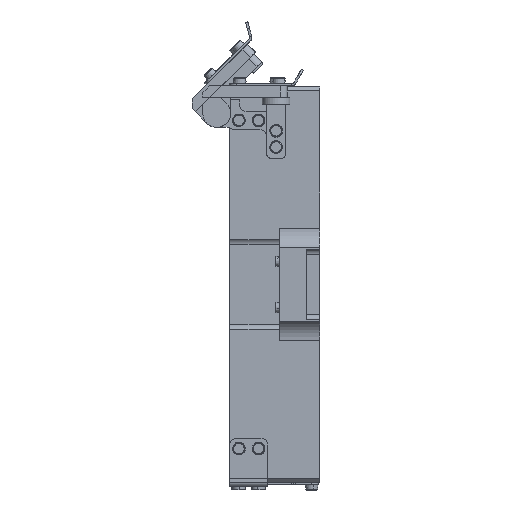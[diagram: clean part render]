
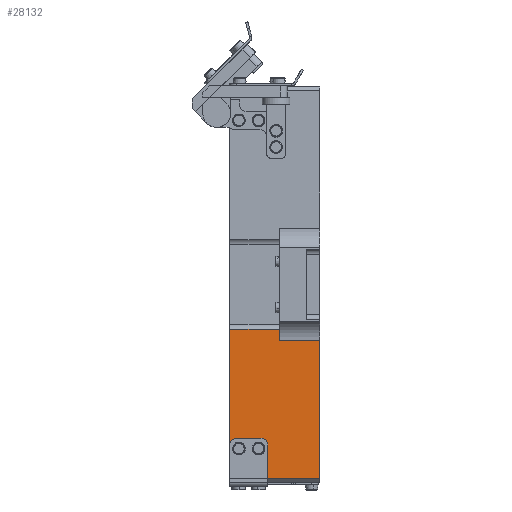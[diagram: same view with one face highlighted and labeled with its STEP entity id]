
A CAD part, left-side view. The second image highlights one B-rep face of the part: STEP entity #28132.
In plain terms, the highlighted planar face has unit normal (-1, 0, 0).
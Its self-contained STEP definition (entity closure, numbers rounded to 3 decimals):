
#37 = EDGE_CURVE ( 'NONE', #5263, #28779, #29802, .T. ) ;
#280 = VECTOR ( 'NONE', #31866, 1000. ) ;
#1132 = EDGE_CURVE ( 'NONE', #28779, #25888, #34194, .T. ) ;
#1254 = LINE ( 'NONE', #32249, #36612 ) ;
#1650 = EDGE_CURVE ( 'NONE', #9649, #34213, #6955, .T. ) ;
#1798 = DIRECTION ( 'NONE',  ( 1., 0., 0. ) ) ;
#1805 = CARTESIAN_POINT ( 'NONE',  ( -107.5, 39., -69.5 ) ) ;
#1831 = CARTESIAN_POINT ( 'NONE',  ( -107.5, 22.5, -66.5 ) ) ;
#3813 = VERTEX_POINT ( 'NONE', #1805 ) ;
#4221 = DIRECTION ( 'NONE',  ( 0., 1., 0. ) ) ;
#4945 = CARTESIAN_POINT ( 'NONE',  ( -107.5, 0., 0. ) ) ;
#4967 = CIRCLE ( 'NONE', #10204, 3. ) ;
#5263 = VERTEX_POINT ( 'NONE', #21973 ) ;
#5346 = LINE ( 'NONE', #25893, #20368 ) ;
#6797 = CARTESIAN_POINT ( 'NONE',  ( -107.5, 0., -84. ) ) ;
#6945 = FACE_OUTER_BOUND ( 'NONE', #31170, .T. ) ;
#6955 = CIRCLE ( 'NONE', #9812, 3. ) ;
#7314 = DIRECTION ( 'NONE',  ( 0., 1., 0. ) ) ;
#7588 = CARTESIAN_POINT ( 'NONE',  ( -107.5, 25.5, -69.5 ) ) ;
#8574 = CARTESIAN_POINT ( 'NONE',  ( -107.5, 17.4, -24.352 ) ) ;
#8708 = CARTESIAN_POINT ( 'NONE',  ( -107.5, 39., -19.412 ) ) ;
#8714 = VECTOR ( 'NONE', #7314, 1000. ) ;
#8964 = VERTEX_POINT ( 'NONE', #8708 ) ;
#9439 = EDGE_CURVE ( 'NONE', #16827, #8964, #32076, .T. ) ;
#9612 = CARTESIAN_POINT ( 'NONE',  ( -107.5, 12., -84. ) ) ;
#9649 = VERTEX_POINT ( 'NONE', #10187 ) ;
#9761 = VECTOR ( 'NONE', #16106, 1000. ) ;
#9812 = AXIS2_PLACEMENT_3D ( 'NONE', #7588, #27861, #10530 ) ;
#10187 = CARTESIAN_POINT ( 'NONE',  ( -107.5, 25.5, -66.5 ) ) ;
#10204 = AXIS2_PLACEMENT_3D ( 'NONE', #13142, #1798, #4221 ) ;
#10530 = DIRECTION ( 'NONE',  ( 0., 1., 0. ) ) ;
#10693 = ORIENTED_EDGE ( 'NONE', *, *, #18094, .T. ) ;
#10907 = CARTESIAN_POINT ( 'NONE',  ( -107.5, 12., -70.5 ) ) ;
#11774 = LINE ( 'NONE', #37288, #16723 ) ;
#12493 = DIRECTION ( 'NONE',  ( 0., -1., 0. ) ) ;
#13142 = CARTESIAN_POINT ( 'NONE',  ( -107.5, 36., -69.5 ) ) ;
#14442 = DIRECTION ( 'NONE',  ( 0., 0., -1. ) ) ;
#14593 = EDGE_CURVE ( 'NONE', #8964, #3813, #11774, .T. ) ;
#16106 = DIRECTION ( 'NONE',  ( 0., 0., 1. ) ) ;
#16472 = CARTESIAN_POINT ( 'NONE',  ( -107.5, 22.5, -87.5 ) ) ;
#16719 = ORIENTED_EDGE ( 'NONE', *, *, #28828, .T. ) ;
#16723 = VECTOR ( 'NONE', #14442, 1000. ) ;
#16827 = VERTEX_POINT ( 'NONE', #20977 ) ;
#17596 = VERTEX_POINT ( 'NONE', #27601 ) ;
#18094 = EDGE_CURVE ( 'NONE', #35577, #16827, #1254, .T. ) ;
#19774 = DIRECTION ( 'NONE',  ( 1., 0., 0. ) ) ;
#20368 = VECTOR ( 'NONE', #37483, 1000. ) ;
#20646 = EDGE_CURVE ( 'NONE', #34213, #5263, #20918, .T. ) ;
#20918 = LINE ( 'NONE', #16472, #31311 ) ;
#20977 = CARTESIAN_POINT ( 'NONE',  ( -107.5, 17.4, -19.412 ) ) ;
#21009 = DIRECTION ( 'NONE',  ( 0., 0., 1. ) ) ;
#21973 = CARTESIAN_POINT ( 'NONE',  ( -107.5, 22.5, -84. ) ) ;
#22271 = EDGE_CURVE ( 'NONE', #9649, #17596, #36750, .T. ) ;
#22941 = EDGE_CURVE ( 'NONE', #25888, #35577, #5346, .T. ) ;
#25479 = AXIS2_PLACEMENT_3D ( 'NONE', #10907, #19774, #28341 ) ;
#25613 = CARTESIAN_POINT ( 'NONE',  ( -107.5, 0., -24.352 ) ) ;
#25623 = ORIENTED_EDGE ( 'NONE', *, *, #9439, .T. ) ;
#25888 = VERTEX_POINT ( 'NONE', #25613 ) ;
#25893 = CARTESIAN_POINT ( 'NONE',  ( -107.5, -9.487, -24.352 ) ) ;
#27063 = VECTOR ( 'NONE', #12493, 1000. ) ;
#27529 = ORIENTED_EDGE ( 'NONE', *, *, #1650, .T. ) ;
#27601 = CARTESIAN_POINT ( 'NONE',  ( -107.5, 36., -66.5 ) ) ;
#27861 = DIRECTION ( 'NONE',  ( 1., 0., 0. ) ) ;
#27917 = ORIENTED_EDGE ( 'NONE', *, *, #20646, .T. ) ;
#27993 = PLANE ( 'NONE',  #25479 ) ;
#28132 = ADVANCED_FACE ( 'NONE', ( #6945 ), #27993, .F. ) ;
#28341 = DIRECTION ( 'NONE',  ( 0., 0., -1. ) ) ;
#28439 = CARTESIAN_POINT ( 'NONE',  ( -107.5, -22.983, -19.412 ) ) ;
#28779 = VERTEX_POINT ( 'NONE', #6797 ) ;
#28828 = EDGE_CURVE ( 'NONE', #3813, #17596, #4967, .T. ) ;
#29802 = LINE ( 'NONE', #9612, #27063 ) ;
#30211 = ORIENTED_EDGE ( 'NONE', *, *, #22941, .T. ) ;
#30809 = DIRECTION ( 'NONE',  ( 0., 0., -1. ) ) ;
#31170 = EDGE_LOOP ( 'NONE', ( #33918, #16719, #34902, #27529, #27917, #35528, #36003, #30211, #10693, #25623 ) ) ;
#31311 = VECTOR ( 'NONE', #30809, 1000. ) ;
#31866 = DIRECTION ( 'NONE',  ( 0., 1., 0. ) ) ;
#31958 = CARTESIAN_POINT ( 'NONE',  ( -107.5, 22.5, -69.5 ) ) ;
#32076 = LINE ( 'NONE', #28439, #280 ) ;
#32249 = CARTESIAN_POINT ( 'NONE',  ( -107.5, 17.4, -70.5 ) ) ;
#33918 = ORIENTED_EDGE ( 'NONE', *, *, #14593, .T. ) ;
#34194 = LINE ( 'NONE', #4945, #9761 ) ;
#34213 = VERTEX_POINT ( 'NONE', #31958 ) ;
#34902 = ORIENTED_EDGE ( 'NONE', *, *, #22271, .F. ) ;
#35528 = ORIENTED_EDGE ( 'NONE', *, *, #37, .T. ) ;
#35577 = VERTEX_POINT ( 'NONE', #8574 ) ;
#36003 = ORIENTED_EDGE ( 'NONE', *, *, #1132, .T. ) ;
#36612 = VECTOR ( 'NONE', #21009, 1000. ) ;
#36750 = LINE ( 'NONE', #1831, #8714 ) ;
#37288 = CARTESIAN_POINT ( 'NONE',  ( -107.5, 39., 0. ) ) ;
#37483 = DIRECTION ( 'NONE',  ( 0., 1., 0. ) ) ;
